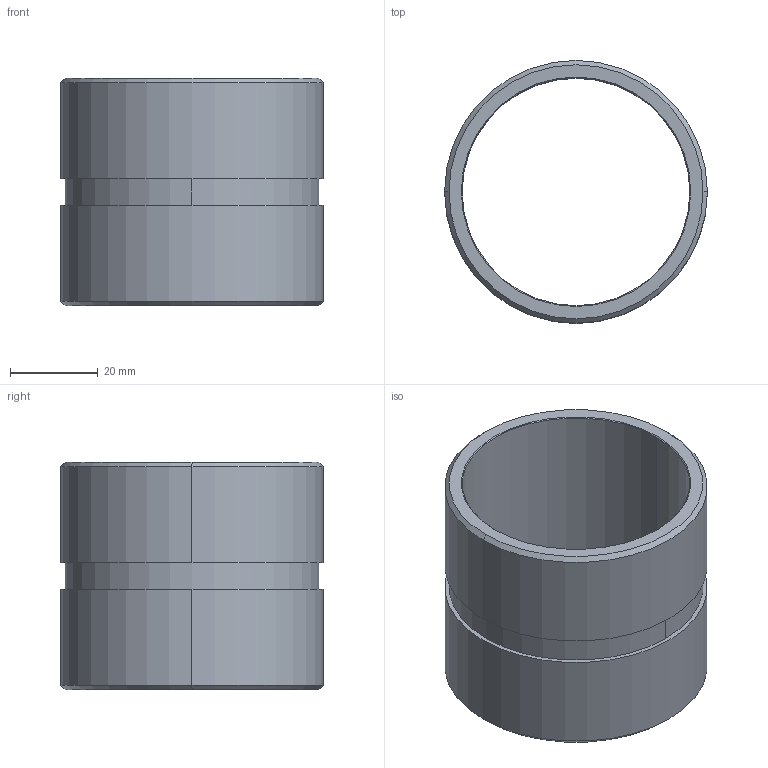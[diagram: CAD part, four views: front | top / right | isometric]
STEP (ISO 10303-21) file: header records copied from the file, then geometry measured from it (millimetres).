
FILE_DESCRIPTION(('CATIA V5 STEP','CAx-IF Rec.Pracs.--- Model Styling and Organization---1.4--- 2014-01-23','CAx-IF Rec.Pracs.---3D Tessellated Data Validation Properties---0.5---2014-09-14'),'2;1');
FILE_NAME('\\GSBFILE\data\URETIM\3D DATALAR\2016\KALIP ELEMANLARI\C KODLARI\C104-02\C104-02-055-050.stp','2019-08-06T07:45:39+00:00',('none'),('none'),'CATIA Version 5-6 Release 2016 SP6 HF8','CATIA V5 STEP AP242','none');
FILE_SCHEMA(('AP242_MANAGED_MODEL_BASED_3D_ENGINEERING_MIM_LF {1 0 10303 442 1 1 4}'));
Length unit declared in the file: millimetre
Products named in the file (1): Part1
Bounding box: 60 x 60 x 52 mm (x, y, z)
Volume: 35288.2 mm3; surface area: 19775.5 mm2
Topology: 1 solids, 1 shells, 20 faces, 40 edges, 24 vertices
Faces by surface type: cone 8, cylinder 8, plane 4
Entity records: 500 total; most frequent: CARTESIAN_POINT 80, ORIENTED_EDGE 80, DIRECTION 70, AXIS2_PLACEMENT_3D 40, EDGE_CURVE 40, CIRCLE 24, EDGE_LOOP 24, VERTEX_POINT 24
